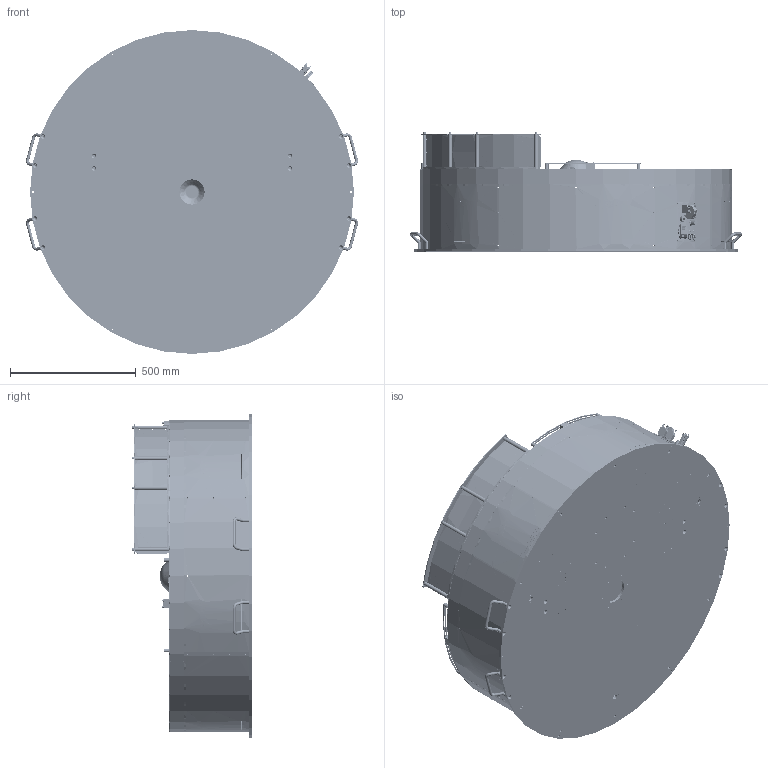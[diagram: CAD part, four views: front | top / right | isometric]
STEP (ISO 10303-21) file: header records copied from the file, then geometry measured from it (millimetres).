
FILE_DESCRIPTION (( 'STEP AP203' ), '1' );
FILE_NAME ('GM000773.STEP', '2024-04-09T07:59:14', ( '' ), ( '' ), 'SwSTEP 2.0', 'SolidWorks 2023', '' );
FILE_SCHEMA (( 'CONFIG_CONTROL_DESIGN' ));
Length unit declared in the file: millimetre
Products named in the file (56): PD006338; PD003244; PD003221; CE000316; PD000043; CE000421; PD003220; PD003272; CE000007; CM000686_001; PD003218; PD003267; PD006337; CM000027; CM000025; PD001119; PD004854; CE000418; CM000026; CM000008_005; CE000013; CM000015_001; GM000773; CM000008_004; CM000006; PD006340; PD003269; CM000051; CM000686; PD003249; CM000008_001; PD003274; CM000166; CM000015; CM000686_002; CM000008; PD003263; PD003262; CM000024; PD003219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
Assembly tree (112 placements, depth 3):
  GM000773
    CM000166  x8
    CM000027  x4
    CM000051  x4
    CM000024  x10
    CM000026  x10
    CM000025  x4
    CM000043  x2
    CM000015  x2
      CM000015_001
      CM000015_002
    PD003218
    PD003219
    PD003221  x2
    PD003220
    PD003244
    PD003249
    PD006333
    CM000006  x4
    PD001360_FB500
    CE000007
    CE000013  x2
    CE000005
    CM000008
      CM000008_001
      CM000008_003  x2
      CM000008_002
      CM000008_004
      CM000008_005
    CE000316
    CM000686
      CM000686_001
      CM000686_002
    CE000039
    CE000276
    CE000420
    CE000419
    CE000418
    CE000421
    PD003259
    PD003261
    PD006338  x2
    PD006337  x4
    PD003267  x2
    PD000043  x4
    PD003263
    PD003272  x4
    PD003269
    PD003317
    PD001119  x2
    PD006339
    PD006340
    CM000001  x4
    PD003274
    PD003262
    PD004854
Bounding box: 1322.61 x 475 x 1290 mm (x, y, z)
Volume: 34799296 mm3; surface area: 10763737.5 mm2
Topology: 114 solids, 133 shells, 12058 faces, 32196 edges, 20743 vertices
Faces by surface type: plane 5475, cylinder 3381, bspline 1730, cone 1087, torus 326, sphere 59
Entity records: 530998 total; most frequent: CARTESIAN_POINT 268086, ORIENTED_EDGE 57742, DIRECTION 45486, EDGE_CURVE 29073, VERTEX_POINT 18998, AXIS2_PLACEMENT_3D 16526, EDGE_LOOP 12496, LINE 12434
